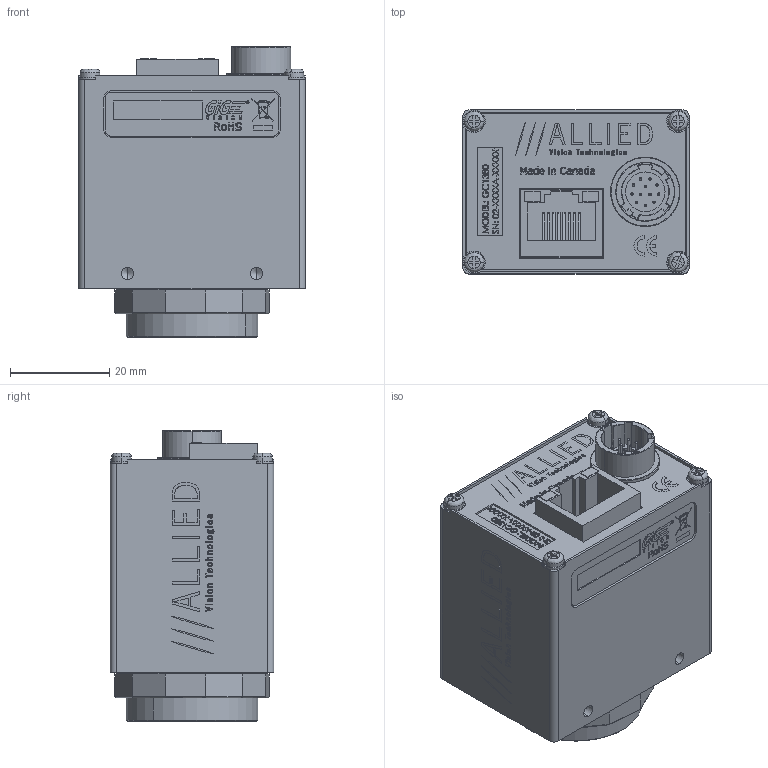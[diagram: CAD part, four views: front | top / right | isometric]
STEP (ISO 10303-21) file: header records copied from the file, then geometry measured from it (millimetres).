
FILE_DESCRIPTION (( 'STEP AP214' ), '1' );
FILE_NAME ('GC1380.STEP', '2013-07-31T19:07:45', ( '' ), ( '' ), 'SwSTEP 2.0', 'SolidWorks 2013', '' );
FILE_SCHEMA (( 'AUTOMOTIVE_DESIGN' ));
Length unit declared in the file: millimetre
Products named in the file (19): Sony ICX285 BODY; Sony ICX285 WINDOW; 220053-SONY ICX285AL; 110045B-EC-CCD DUST SHIELD GASKET; 110043A GC BACK PLATE; 110043A GC BACK PLATE - WO HW; 740032B-GC MAIN LABEL; 740123A-GC MAC LABEL; 740033A-A GC1380M LABEL PRINT; 260034-HIROSE HR10A-10R-12PB; 140023-SCREW SKT CAP M2x10 SS; 200047A-A GC INTERFACE PCB ASSY; 260033-AMPHENOL RJHS-3381; 110042C GC-CCD FRONT_Finished with logo; 110003AC-CV CMOUNT RING; 110031A-B EC-CCD LOCKING RING; 140013-washer spring lock M2; 140017-SCREW PAN M2x4 SS; GC1380
Assembly tree (27 placements, depth 3):
  GC1380
    140017-SCREW PAN M2x4 SS  x4
    140013-washer spring lock M2  x6
    110031A-B EC-CCD LOCKING RING
    110003AC-CV CMOUNT RING
    110042C GC-CCD FRONT_Finished with logo
    200047A-A GC INTERFACE PCB ASSY
      260033-AMPHENOL RJHS-3381
    140023-SCREW SKT CAP M2x10 SS  x2
    260034-HIROSE HR10A-10R-12PB
    740033A-A GC1380M LABEL PRINT
    740123A-GC MAC LABEL
    740032B-GC MAIN LABEL
    110043A GC BACK PLATE
      110043A GC BACK PLATE - WO HW
    110045B-EC-CCD DUST SHIELD GASKET
    220053-SONY ICX285AL
      Sony ICX285 WINDOW
      Sony ICX285 BODY
Bounding box: 45.72 x 33.02 x 58.67 mm (x, y, z)
Volume: 23381.3 mm3; surface area: 33539.7 mm2
Topology: 24 solids, 24 shells, 3235 faces, 8509 edges, 5532 vertices
Faces by surface type: plane 1853, bspline 901, cylinder 301, cone 180
Entity records: 161605 total; most frequent: CARTESIAN_POINT 56008, ORIENTED_EDGE 16194, DIRECTION 11531, EDGE_CURVE 8097, LINE 5611, VECTOR 5611, VERTEX_POINT 5314, EDGE_LOOP 3435
